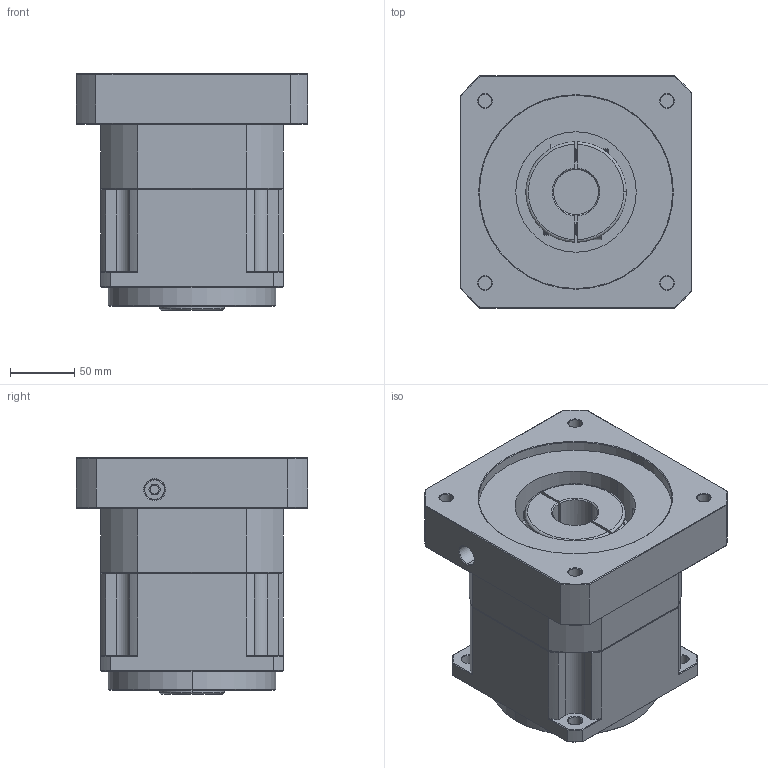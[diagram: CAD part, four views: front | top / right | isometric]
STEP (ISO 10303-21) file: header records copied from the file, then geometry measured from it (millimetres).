
FILE_DESCRIPTION (( 'STEP AP214' ), '1' );
FILE_NAME ('ZPB142-K35-L1-P1-35-150-200-M12.step', '2024-07-05T00:09:45', ( 'Windows 蚚誧' ), ( 'Organization' ), 'SwSTEP 2.0', 'SolidWorks 2016', '' );
FILE_SCHEMA (( 'AUTOMOTIVE_DESIGN' ));
Length unit declared in the file: millimetre
Products named in the file (1): ZPB142-K35-L1-P1-35-150-200-M12
Bounding box: 180 x 180 x 183.5 mm (x, y, z)
Surface area: 222109.3 mm2 (no closed solid volume)
Topology: 0 solids, 36 shells, 1749 faces, 4667 edges, 2994 vertices
Faces by surface type: plane 906, bspline 376, cone 257, cylinder 210
Entity records: 86350 total; most frequent: CARTESIAN_POINT 37611, ORIENTED_EDGE 9330, DIRECTION 7169, EDGE_CURVE 4667, VECTOR 3121, LINE 3121, VERTEX_POINT 2994, AXIS2_PLACEMENT_3D 2024
